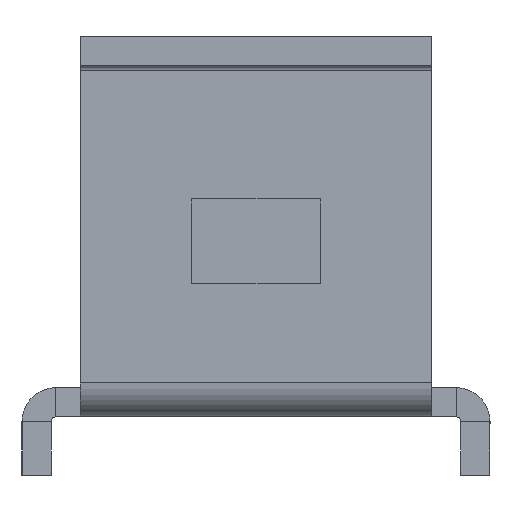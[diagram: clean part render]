
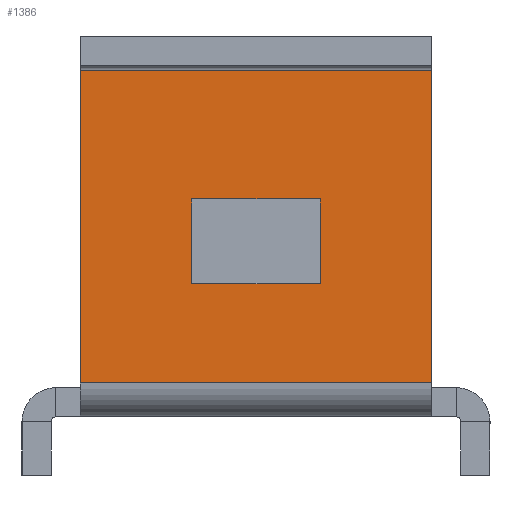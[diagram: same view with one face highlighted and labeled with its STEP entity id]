
A CAD part, left-side view. The second image highlights one B-rep face of the part: STEP entity #1386.
In plain terms, the highlighted planar face has unit normal (-1, 0, 0).
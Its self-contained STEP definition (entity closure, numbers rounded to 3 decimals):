
#20=FACE_BOUND('',#240,.T.);
#150=FACE_OUTER_BOUND('',#239,.T.);
#239=EDGE_LOOP('',(#1174,#1175,#1176,#1177));
#240=EDGE_LOOP('',(#1178,#1179,#1180,#1181));
#258=LINE('',#1931,#410);
#262=LINE('',#1939,#414);
#265=LINE('',#1945,#417);
#268=LINE('',#1950,#420);
#388=LINE('',#2261,#540);
#389=LINE('',#2263,#541);
#390=LINE('',#2265,#542);
#391=LINE('',#2266,#543);
#410=VECTOR('',#1531,14.5);
#414=VECTOR('',#1537,22.);
#417=VECTOR('',#1542,14.5);
#420=VECTOR('',#1547,22.);
#540=VECTOR('',#1865,60.);
#541=VECTOR('',#1866,53.4);
#542=VECTOR('',#1867,60.);
#543=VECTOR('',#1868,53.4);
#562=VERTEX_POINT('',#1929);
#563=VERTEX_POINT('',#1930);
#566=VERTEX_POINT('',#1938);
#568=VERTEX_POINT('',#1944);
#660=VERTEX_POINT('',#2255);
#661=VERTEX_POINT('',#2260);
#662=VERTEX_POINT('',#2262);
#663=VERTEX_POINT('',#2264);
#674=EDGE_CURVE('',#562,#563,#258,.T.);
#678=EDGE_CURVE('',#566,#562,#262,.T.);
#681=EDGE_CURVE('',#568,#566,#265,.T.);
#684=EDGE_CURVE('',#563,#568,#268,.T.);
#839=EDGE_CURVE('',#661,#660,#388,.T.);
#840=EDGE_CURVE('',#662,#661,#389,.T.);
#841=EDGE_CURVE('',#662,#663,#390,.T.);
#842=EDGE_CURVE('',#660,#663,#391,.T.);
#1174=ORIENTED_EDGE('',*,*,#839,.F.);
#1175=ORIENTED_EDGE('',*,*,#840,.F.);
#1176=ORIENTED_EDGE('',*,*,#841,.T.);
#1177=ORIENTED_EDGE('',*,*,#842,.F.);
#1178=ORIENTED_EDGE('',*,*,#674,.T.);
#1179=ORIENTED_EDGE('',*,*,#684,.T.);
#1180=ORIENTED_EDGE('',*,*,#681,.T.);
#1181=ORIENTED_EDGE('',*,*,#678,.T.);
#1300=PLANE('',#1506);
#1386=ADVANCED_FACE('',(#150,#20),#1300,.F.);
#1506=AXIS2_PLACEMENT_3D('',#2259,#1863,#1864);
#1531=DIRECTION('',(0.,0.,1.));
#1537=DIRECTION('',(0.,1.,0.));
#1542=DIRECTION('',(0.,0.,-1.));
#1547=DIRECTION('',(0.,-1.,0.));
#1863=DIRECTION('center_axis',(1.,0.,0.));
#1864=DIRECTION('ref_axis',(0.,0.,-1.));
#1865=DIRECTION('',(0.,1.,0.));
#1866=DIRECTION('',(0.,0.,-1.));
#1867=DIRECTION('',(0.,1.,0.));
#1868=DIRECTION('',(0.,0.,1.));
#1929=CARTESIAN_POINT('',(-65.,11.,-42.25));
#1930=CARTESIAN_POINT('',(-65.,11.,-27.75));
#1931=CARTESIAN_POINT('',(-65.,11.,-81.75));
#1938=CARTESIAN_POINT('',(-65.,-11.,-42.25));
#1939=CARTESIAN_POINT('',(-65.,-5.5,-42.25));
#1944=CARTESIAN_POINT('',(-65.,-11.,-27.75));
#1945=CARTESIAN_POINT('',(-65.,-11.,-74.5));
#1950=CARTESIAN_POINT('',(-65.,5.5,-27.75));
#2255=CARTESIAN_POINT('',(-65.,30.,-59.2));
#2259=CARTESIAN_POINT('Origin',(-65.,0.,
-121.25));
#2260=CARTESIAN_POINT('',(-65.,-30.,-59.2));
#2261=CARTESIAN_POINT('',(-65.,0.,-59.2));
#2262=CARTESIAN_POINT('',(-65.,-30.,-5.8));
#2263=CARTESIAN_POINT('',(-65.,-30.,-239.55));
#2264=CARTESIAN_POINT('',(-65.,30.,-5.8));
#2265=CARTESIAN_POINT('',(-65.,0.,-5.8));
#2266=CARTESIAN_POINT('',(-65.,30.,28.25));
